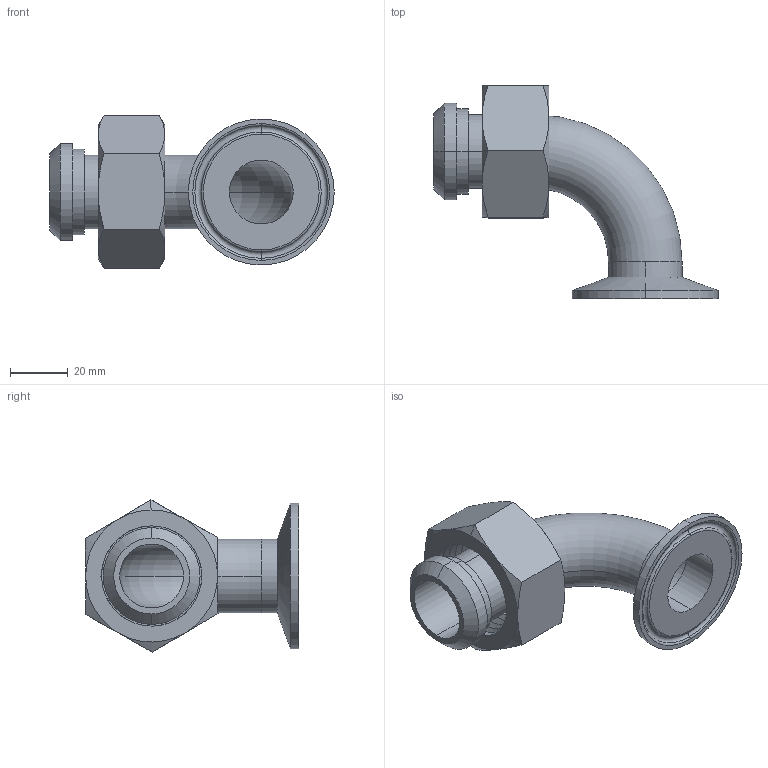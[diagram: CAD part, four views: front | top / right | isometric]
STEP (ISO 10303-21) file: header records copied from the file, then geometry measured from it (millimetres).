
FILE_DESCRIPTION (( 'STEP AP203' ), '1' );
FILE_NAME ('EG2FPR1.0.STEP', '2018-05-07T12:34:20', ( 'vneprd' ), ( 'Microsoft' ), 'SwSTEP 2.0', 'SolidWorks 2014', '' );
FILE_SCHEMA (( 'CONFIG_CONTROL_DESIGN' ));
Length unit declared in the file: inch
Products named in the file (5): EG2FPR1.0; 2WCL1.0; 14A1.0; EG2CS1.0; 13H1.0
Assembly tree (4 placements, depth 2):
  EG2FPR1.0
    2WCL1.0
    14A1.0
    EG2CS1.0
    13H1.0
Bounding box: 98.22 x 73.72 x 52.64 mm (x, y, z)
Volume: 41574.9 mm3; surface area: 30147.8 mm2
Topology: 4 solids, 4 shells, 77 faces, 171 edges, 106 vertices
Faces by surface type: cylinder 26, plane 20, cone 18, torus 10, bspline 3
Entity records: 3825 total; most frequent: CARTESIAN_POINT 1640, DIRECTION 361, ORIENTED_EDGE 342, EDGE_CURVE 171, AXIS2_PLACEMENT_3D 159, VERTEX_POINT 106, EDGE_LOOP 89, CIRCLE 78
